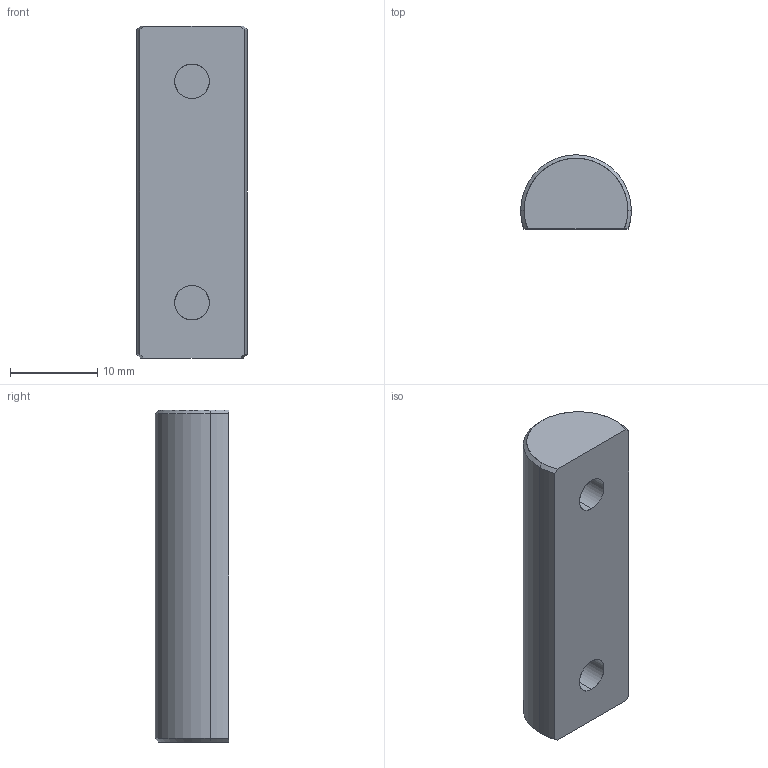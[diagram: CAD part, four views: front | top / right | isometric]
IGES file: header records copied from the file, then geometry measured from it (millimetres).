
Start section: SolidWorks IGES file using analytic representation for surfaces
Global section: file name: D:\Solid_parts\MECHeDESIGN\Bal-Tec\Catalog 105-A\Distribution\IGES\500-TC-BH.IGS; native system: SolidWorks 2005 by SolidWorks Corporation; preprocessor: SolidWorks 2005 by SolidWorks Corporation; author: rvillegas; date: 061205.190044; units: inch
Bounding box: 12.7 x 8.48 x 38.1 mm (x, y, z)
Surface area: 1648.3 mm2 (no closed solid volume)
Topology: 0 solids, 0 shells, 18 faces, 230 edges, 230 vertices
Faces by surface type: revolution 13, bspline 5
